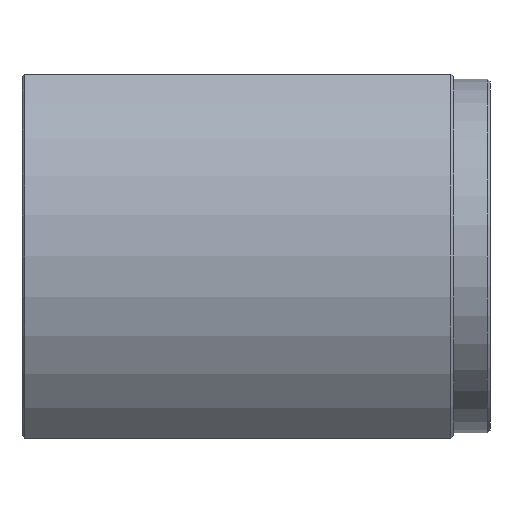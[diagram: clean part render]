
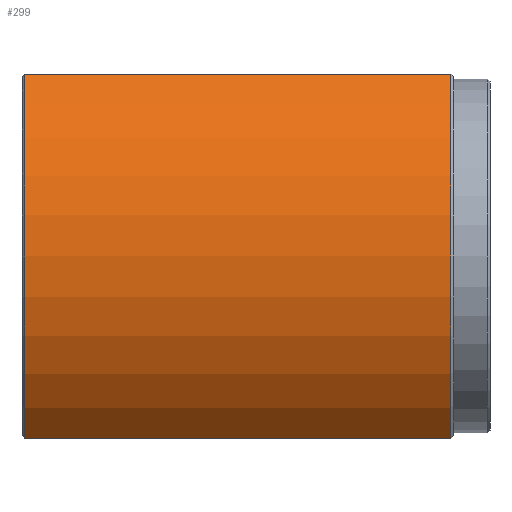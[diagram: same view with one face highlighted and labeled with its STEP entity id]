
A CAD part, front view. The second image highlights one B-rep face of the part: STEP entity #299.
In plain terms, the highlighted cylindrical face has radius 48 mm (diameter 96 mm), a partial arc.
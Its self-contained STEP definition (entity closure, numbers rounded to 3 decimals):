
#128=CARTESIAN_POINT('',(82.5,-32.848,35.0));
#129=VERTEX_POINT('',#128);
#137=CARTESIAN_POINT('',(82.5,-32.848,-35.0));
#138=VERTEX_POINT('',#137);
#139=CARTESIAN_POINT('',(82.5,0.0,0.0));
#140=DIRECTION('',(1.0,0.0,0.0));
#141=DIRECTION('',(0.0,-1.0,0.0));
#142=AXIS2_PLACEMENT_3D('',#139,#140,#141);
#143=CIRCLE('',#142,48.);
#144=EDGE_CURVE('',#129,#138,#143,.T.);
#250=CARTESIAN_POINT('',(0.5,-32.848,-35.0));
#251=VERTEX_POINT('',#250);
#252=CARTESIAN_POINT('',(0.5,-32.848,-35.0));
#253=DIRECTION('',(1.0,0.0,0.0));
#254=VECTOR('',#253,82.0);
#255=LINE('',#252,#254);
#256=EDGE_CURVE('',#251,#138,#255,.T.);
#275=CARTESIAN_POINT('',(0.0,0.0,0.0));
#276=DIRECTION('',(1.0,0.0,0.0));
#277=DIRECTION('',(0.0,1.0,0.0));
#278=AXIS2_PLACEMENT_3D('',#275,#276,#277);
#279=CYLINDRICAL_SURFACE('',#278,48.);
#280=ORIENTED_EDGE('',*,*,#144,.F.);
#281=CARTESIAN_POINT('',(0.5,-32.848,35.0));
#282=VERTEX_POINT('',#281);
#283=CARTESIAN_POINT('',(0.5,-32.848,35.0));
#284=DIRECTION('',(1.0,0.0,0.0));
#285=VECTOR('',#284,82.0);
#286=LINE('',#283,#285);
#287=EDGE_CURVE('',#282,#129,#286,.T.);
#288=ORIENTED_EDGE('',*,*,#287,.F.);
#289=CARTESIAN_POINT('',(0.5,0.0,0.0));
#290=DIRECTION('',(-1.0,0.0,0.0));
#291=DIRECTION('',(0.0,-1.0,0.0));
#292=AXIS2_PLACEMENT_3D('',#289,#290,#291);
#293=CIRCLE('',#292,48.);
#294=EDGE_CURVE('',#251,#282,#293,.T.);
#295=ORIENTED_EDGE('',*,*,#294,.F.);
#296=ORIENTED_EDGE('',*,*,#256,.T.);
#297=EDGE_LOOP('',(#280,#288,#295,#296));
#298=FACE_OUTER_BOUND('',#297,.T.);
#299=ADVANCED_FACE('',(#298),#279,.T.);
